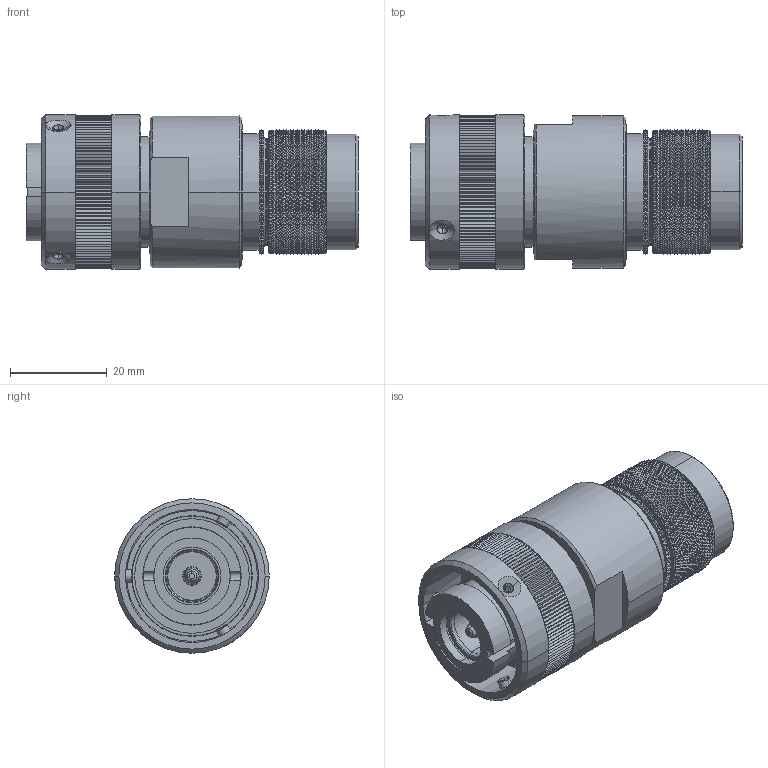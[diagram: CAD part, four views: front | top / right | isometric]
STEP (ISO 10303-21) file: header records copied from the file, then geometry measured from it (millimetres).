
FILE_DESCRIPTION((''),'2;1');
FILE_NAME('GCE3106E16M25P-B-T14_SW0001','2023-06-06T10:33:33',('paultorloting'),('NET AG system integration'),'CREO PARAMETRIC BY PTC INC, 2021404','CREO PARAMETRIC BY PTC INC, 2021404','');
FILE_SCHEMA(('AUTOMOTIVE_DESIGN { 1 0 10303 214 1 1 1 1 }'));
Products named in the file (1): GCE3106E16M25P-B-T14_SW0001
Bounding box: 68.8 x 32 x 32 mm (x, y, z)
Volume: 37275 mm3; surface area: 16343.8 mm2
Topology: 2 solids, 2 shells, 9083 faces, 16110 edges, 7063 vertices
Faces by surface type: bspline 6248, plane 2641, cylinder 103, cone 63, torus 28
Entity records: 310397 total; most frequent: CARTESIAN_POINT 174384, ORIENTED_EDGE 32208, EDGE_CURVE 16104, DIRECTION 11641, B_SPLINE_CURVE_WITH_KNOTS 10476, EDGE_LOOP 9133, FACE_OUTER_BOUND 9083, ADVANCED_FACE 9083
